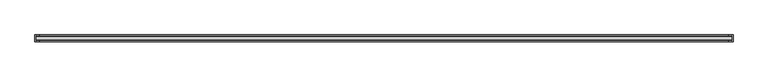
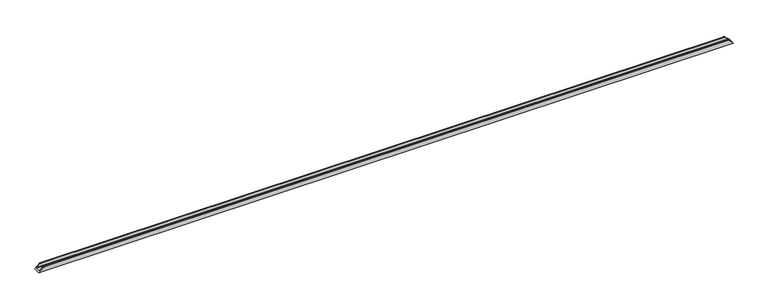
"""IFC4 building model written with IfcOpenShell, lengths in millimetres: proxy geometry, Weiku - Montante - Caixilho único 02.3.02.403 : Weiku - Montante - Caixilho único 02.3.02.403."""

from ifc_helpers import new_model, si_unit, frame, origin, place, context, project, spatial, ellipse_curve, source, transform, mapped, element, save
from ifc_brep_helpers import plane_surface, cylinder_surface, advanced_brep


def generic_models_fff552a3(model_context):
    return source(origin(), model_context, "Body", "AdvancedBrep", [
        advanced_brep(
        [(-4038.2, -9.8, 18.2), (4038.2, -9.8, 18.2), (4000.5, -9.8, 55.9), (-4000.5, -9.8, 55.9), (-4040.7000079, -63.85, 15.6999921), (4040.7000079, -63.85, 15.6999921), (4040.7000079, -15.05, 15.6999921), (-4040.7000079, -15.05, 15.6999921), (-4056.4, -78.9, 0.0), (-4056.4, 0.0, 0.0), (4056.4, 0.0, 0.0), (4056.4, -78.9, 0.0), (-4000.5, 0.0, 55.9), (4000.5, 0.0, 55.9), (-4000.0, -9.3, 56.4), (4000.0, -9.3, 56.4), (4000.0, -0.5, 56.4), (-4000.0, -0.5, 56.4), (-4038.2, -15.05, 18.2), (4038.2, -15.05, 18.2), (-4038.2, -63.85, 18.2), (4038.2, -63.85, 18.2), (-4038.2, -69.1, 18.2), (4038.2, -69.1, 18.2), (-4000.5, -69.1, 55.9), (4000.5, -69.1, 55.9), (-4000.0, -78.4, 56.4), (4000.0, -78.4, 56.4), (4000.0, -69.6, 56.4), (-4000.0, -69.6, 56.4), (-4000.5, -78.9, 55.9), (4000.5, -78.9, 55.9)],
        [
            (0, 1),
            (1, 2),
            (2, 3),
            (3, 0),
            (4, 5),
            (5, 6),
            (6, 7),
            (7, 4),
            (8, 9),
            (9, 10),
            (10, 11),
            (11, 8),
            (9, 12),
            (12, 13),
            (13, 10),
            (14, 15),
            (15, 16),
            (16, 17),
            (17, 14),
            (18, 19),
            (19, 1),
            (0, 18),
            (6, 19),
            (18, 7),
            (16, 13, ellipse_curve(frame((4000.5, -0.5, 55.9), z_axis=(-0.7071067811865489, 0.0, -0.7071067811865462), x_axis=(-0.707106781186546, 0.0, 0.7071067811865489)), 0.7071068, 0.5)),
            (12, 17, ellipse_curve(frame((-4000.5, -0.5, 55.9), z_axis=(0.7071067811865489, 0.0, -0.7071067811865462), x_axis=(-0.707106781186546, 0.0, -0.7071067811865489)), 0.7071068, 0.5)),
            (20, 21),
            (21, 5),
            (4, 20),
            (22, 23),
            (23, 21),
            (20, 22),
            (24, 25),
            (25, 23),
            (22, 24),
            (26, 27),
            (27, 28),
            (28, 29),
            (29, 26),
            (30, 31),
            (31, 27, ellipse_curve(frame((4000.5, -78.4, 55.9), z_axis=(-0.7071067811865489, 0.0, -0.7071067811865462), x_axis=(-0.707106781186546, 0.0, 0.7071067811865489)), 0.7071068, 0.5)),
            (26, 30, ellipse_curve(frame((-4000.5, -78.4, 55.9), z_axis=(0.7071067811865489, 0.0, -0.7071067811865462), x_axis=(-0.707106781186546, 0.0, -0.7071067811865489)), 0.7071068, 0.5)),
            (11, 31),
            (30, 8),
            (2, 15, ellipse_curve(frame((4000.5, -9.3, 55.9), z_axis=(-0.7071067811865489, 0.0, -0.7071067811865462), x_axis=(-0.707106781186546, 0.0, 0.7071067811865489)), 0.7071068, 0.5)),
            (14, 3, ellipse_curve(frame((-4000.5, -9.3, 55.9), z_axis=(0.7071067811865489, 0.0, -0.7071067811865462), x_axis=(-0.707106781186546, 0.0, -0.7071067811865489)), 0.7071068, 0.5)),
            (28, 25, ellipse_curve(frame((4000.5, -69.6, 55.9), z_axis=(-0.7071067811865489, 0.0, -0.7071067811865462), x_axis=(-0.707106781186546, 0.0, 0.7071067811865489)), 0.7071068, 0.5)),
            (24, 29, ellipse_curve(frame((-4000.5, -69.6, 55.9), z_axis=(0.7071067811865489, 0.0, -0.7071067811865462), x_axis=(-0.707106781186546, 0.0, -0.7071067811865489)), 0.7071068, 0.5)),
        ],
        [
            plane_surface(frame((-4056.4, -9.8, 55.9), z_axis=(0.0, -1.0, 0.0), x_axis=(1.0, 0.0, 0.0))),
            plane_surface(frame((-4056.4, -15.05, 15.6999921), z_axis=(0.0, 0.0, 1.0), x_axis=(1.0, 0.0, 0.0))),
            plane_surface(frame((-4056.4, -78.9, 0.0), z_axis=(0.0, 0.0, -1.0), x_axis=(1.0, 0.0, 0.0))),
            plane_surface(frame((-4056.4, 0.0, 0.0), z_axis=(0.0, 1.0, 0.0), x_axis=(1.0, 0.0, 0.0))),
            plane_surface(frame((-4056.4, -0.5, 56.4), z_axis=(0.0, 0.0, 1.0), x_axis=(1.0, 0.0, 0.0))),
            plane_surface(frame((-4056.4, -9.8, 18.2), z_axis=(0.0, 0.0, 1.0), x_axis=(1.0, 0.0, 0.0))),
            plane_surface(frame((-4056.4, -15.05, 18.2), z_axis=(0.0, -1.0, 0.0), x_axis=(1.0, 0.0, 0.0))),
            cylinder_surface(frame((-4056.4, -0.5, 55.9), z_axis=(-1.0, 0.0, 0.0), x_axis=(0.0, -1.0, 0.0)), 0.5),
            plane_surface(frame((-4056.4, -63.85, 15.6999921), z_axis=(0.0, 1.0, 0.0), x_axis=(1.0, 0.0, 0.0))),
            plane_surface(frame((-4056.4, -63.85, 18.2), z_axis=(0.0, 0.0, 1.0), x_axis=(1.0, 0.0, 0.0))),
            plane_surface(frame((-4056.4, -69.1, 18.2), z_axis=(0.0, 1.0, 0.0), x_axis=(1.0, 0.0, 0.0))),
            plane_surface(frame((-4056.4, -69.6, 56.4), z_axis=(0.0, 0.0, 1.0), x_axis=(1.0, 0.0, 0.0))),
            cylinder_surface(frame((-4056.4, -78.4, 55.9), z_axis=(-1.0, 0.0, 0.0), x_axis=(0.0, 1.0, 0.0)), 0.5),
            plane_surface(frame((-4056.4, -78.9, 55.9), z_axis=(0.0, -1.0, 0.0), x_axis=(1.0, 0.0, 0.0))),
            cylinder_surface(frame((-4056.4, -9.3, 55.9), z_axis=(-1.0, 0.0, 0.0), x_axis=(0.0, -1.0, 0.0)), 0.5),
            cylinder_surface(frame((-4056.4, -69.6, 55.9), z_axis=(-1.0, 0.0, 0.0), x_axis=(0.0, -1.0, 0.0)), 0.5),
            plane_surface(frame((-4056.4, 0.0, 0.0), z_axis=(-0.7071067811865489, 0.0, 0.7071067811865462), x_axis=(0.0, -1.0, 0.0))),
            plane_surface(frame((3996.4, 0.0, 60.0), z_axis=(0.7071067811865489, 0.0, 0.7071067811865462), x_axis=(0.0, -1.0, 0.0))),
        ],
        [
            (0, [[1, 2, 3, 4]]),
            (1, [[5, 6, 7, 8]]),
            (2, [[9, 10, 11, 12]]),
            (3, [[13, 14, 15, -10]]),
            (4, [[16, 17, 18, 19]]),
            (5, [[20, 21, -1, 22]]),
            (6, [[-7, 23, -20, 24]]),
            (7, [[-18, 25, -14, 26]]),
            (8, [[27, 28, -5, 29]]),
            (9, [[30, 31, -27, 32]]),
            (10, [[33, 34, -30, 35]]),
            (11, [[36, 37, 38, 39]]),
            (12, [[40, 41, -36, 42]]),
            (13, [[43, -40, 44, -12]]),
            (14, [[-3, 45, -16, 46]]),
            (15, [[-38, 47, -33, 48]]),
            (16, [[-46, -19, -26, -13, -9, -44, -42, -39, -48, -35, -32, -29, -8, -24, -22, -4]]),
            (17, [[-21, -23, -6, -28, -31, -34, -47, -37, -41, -43, -11, -15, -25, -17, -45, -2]]),
        ],
    ),
    ])


if __name__ == "__main__":
    model = new_model("IFC4")
    model_context = context("Model", 3, world=origin())
    ifc_project = project(units=[si_unit("LENGTHUNIT", "METRE", prefix="MILLI")], contexts=[model_context])
    site = spatial("IfcSite", under=ifc_project)
    building = spatial("IfcBuilding", under=site)
    placement = place(None, origin())
    generic_models_shape = generic_models_fff552a3(model_context)
    element("IfcBuildingElementProxy", 1, Name="Weiku - Montante - Caixilho único 02.3.02.403 : Weiku - Montante - Caixilho único 02.3.02.403", ObjectType="Weiku - Montante - Caixilho único 02.3.02.403 : Weiku - Montante - Caixilho único 02.3.02.403", at=placement, inside=building, context=model_context, shape_type="MappedRepresentation", body=[
        mapped(generic_models_shape, transform((0.0, 0.0, 0.0), x_axis=(1.0, 0.0, 0.0), y_axis=(0.0, 1.0, 0.0), z_axis=(0.0, 0.0, 1.0))),
    ])
    save(model, "model.ifc")
